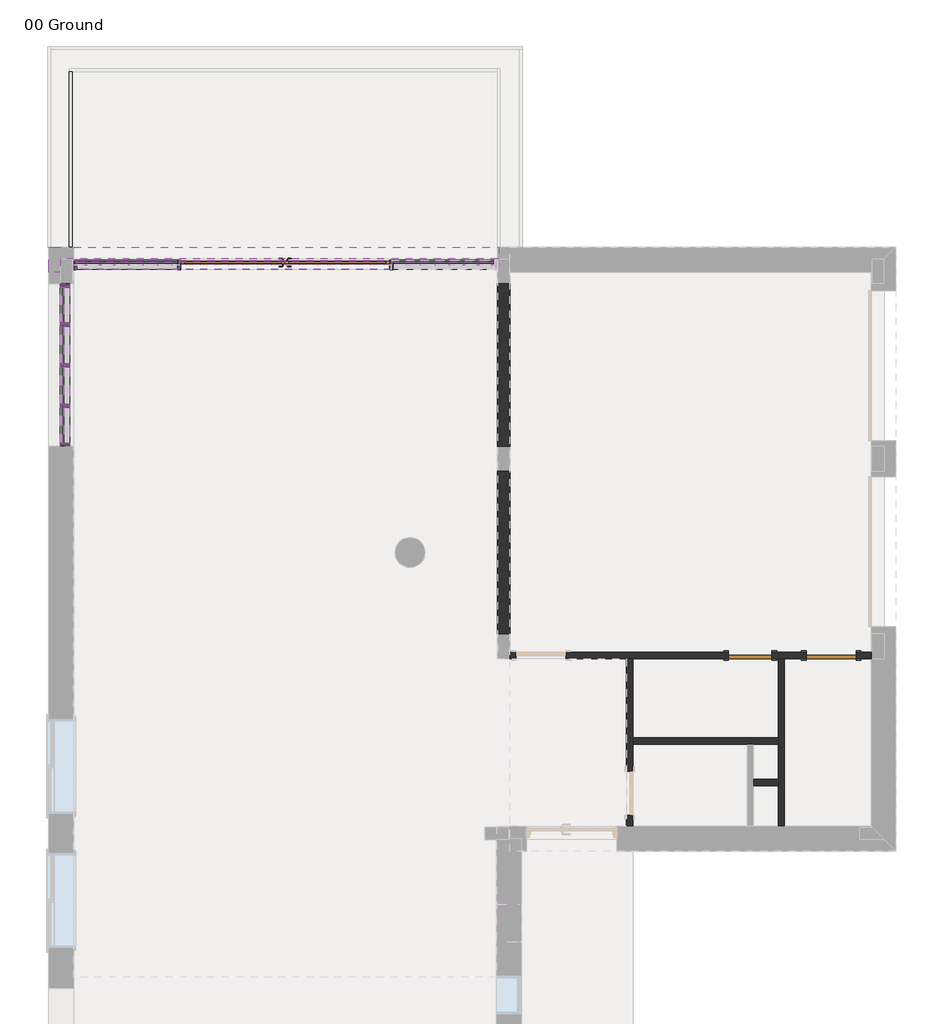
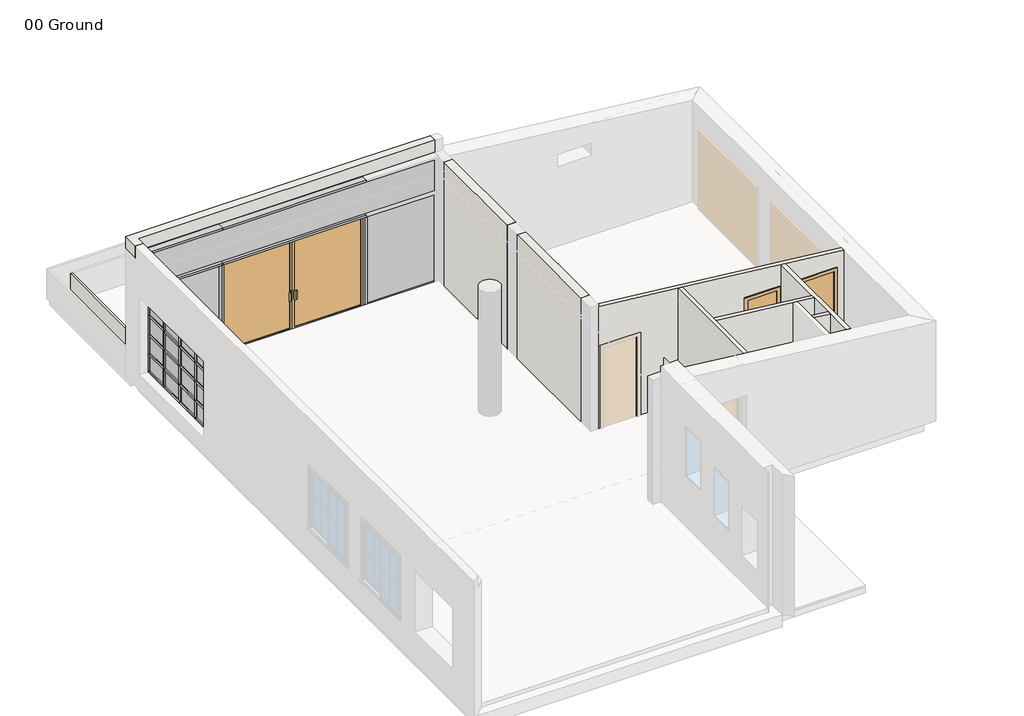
# One storey, part 2 of 3: 50 members, 19 plates, 8 walls, 3 doors.
"""IFC4 building model written with IfcOpenShell, lengths in millimetres."""

from ifc_helpers import new_model, si_unit, frame, origin, origin_with_axes, place, context, project, spatial, polyline, outline, extrude, faceted_brep, transform, mapped, element, save
from components import m_door_curtain_wall_double_storefront_m_door_curtain_wall_edb91ac7, m_single_flush_0700_x_2100mm_23326b45, m_single_flush_0800_x_2100mm_e1c1bfab, rectangular_mullion_50_x_150mm_b8963a12, rectangular_mullion_50_x_150mm_ca64fab8, rectangular_mullion_50_x_150mm_57f910c3, rectangular_mullion_50_x_150mm_ec782ea6, rectangular_mullion_50_x_150mm_324a6438, rectangular_mullion_50_x_150mm_8753ce05, rectangular_mullion_50_x_150mm_5618a3b2, rectangular_mullion_50_x_150mm_9d7ed0e7, rectangular_mullion_50_x_150mm_3942d5f1, rectangular_mullion_50_x_150mm_75048c14, rectangular_mullion_50_x_150mm_fcf054f2, rectangular_mullion_50_x_150mm_24157160, rectangular_mullion_50_x_150mm_bf0cb304, rectangular_mullion_50_x_150mm_89c22e8d, rectangular_mullion_50_x_150mm_42d59fea, rectangular_mullion_50_x_150mm_129a33a7, rectangular_mullion_50_x_150mm_05a43cda, system_panel_glazed_18425fd7, system_panel_glazed_5c27190a, system_panel_glazed_fdc58650, system_panel_glazed_707fa540, system_panel_glazed_f545c6ae, system_panel_glazed_1a6db426, system_panel_solid_6db23722

model = new_model("IFC4")

# Units and contexts
model_context = context("Model", 3, world=origin())
ifc_project = project(units=[si_unit("LENGTHUNIT", "METRE", prefix="MILLI")], contexts=[model_context])

# Site, building, storey
site = spatial("IfcSite", under=ifc_project)
building = spatial("IfcBuilding", under=site)
storey = spatial("IfcBuildingStorey", under=building, Name="00 Ground", Elevation=0.0)

# Doors
placement = place(None, origin())
m_door_curtain_wall_double_storefront_m_door_curtain_wall_shape = m_door_curtain_wall_double_storefront_m_door_curtain_wall_edb91ac7(model_context)
element("IfcDoor", 1, ObjectType="M_Door-Curtain-Wall-Double-Storefront : M_Door-Curtain-Wall-Double-Storefront", at=placement, inside=storey, context=model_context, shape_type="MappedRepresentation", body=[
    mapped(m_door_curtain_wall_double_storefront_m_door_curtain_wall_shape, transform((-4722.5407999, 6242.2898352, 0.0), x_axis=(1.0, 0.0, 0.0), y_axis=(0.0, 1.0, 0.0), z_axis=(0.0, 0.0, 1.0))),
])
m_single_flush_0700_x_2100mm_shape = m_single_flush_0700_x_2100mm_23326b45(model_context)
element("IfcDoor", 2, ObjectType="M_Single-Flush : 0700 x 2100mm", at=placement, inside=storey, context=model_context, shape_type="MappedRepresentation", body=[
    mapped(m_single_flush_0700_x_2100mm_shape, transform((2727.4592001, -12.7101648, 0.0), x_axis=(-1.0, 0.0, 0.0), y_axis=(0.0, -1.0, 0.0), z_axis=(0.0, 0.0, 1.0))),
])
m_single_flush_0800_x_2100mm_shape = m_single_flush_0800_x_2100mm_e1c1bfab(model_context)
element("IfcDoor", 3, ObjectType="M_Single-Flush : 0800 x 2100mm", at=placement, inside=storey, context=model_context, shape_type="MappedRepresentation", body=[
    mapped(m_single_flush_0800_x_2100mm_shape, transform((4024.4592001, -12.7101648, 0.0), x_axis=(1.0, 0.0, 0.0), y_axis=(0.0, 1.0, 0.0), z_axis=(0.0, 0.0, 1.0))),
])

# Members
rectangular_mullion_50_x_150mm_shape = rectangular_mullion_50_x_150mm_b8963a12(model_context)
element("IfcMember", 4, ObjectType="Rectangular Mullion : 50 x 150mm", at=placement, inside=storey, context=model_context, shape_type="MappedRepresentation", body=[
    mapped(rectangular_mullion_50_x_150mm_shape, transform((-2997.5407999, 6242.2898352, 0.0), x_axis=(0.0, 0.0, -1.0), y_axis=(0.0, -1.0, 0.0), z_axis=(-1.0, 0.0, 0.0))),
])
rectangular_mullion_50_x_150mm_2_shape = rectangular_mullion_50_x_150mm_ca64fab8(model_context)
element("IfcMember", 5, ObjectType="Rectangular Mullion : 50 x 150mm", at=placement, inside=storey, context=model_context, shape_type="MappedRepresentation", body=[
    mapped(rectangular_mullion_50_x_150mm_2_shape, transform((-3022.5407999, 6242.2898352, 3200.0), x_axis=(0.0, 0.0, 1.0), y_axis=(0.0, -1.0, 0.0), z_axis=(1.0, 0.0, 0.0))),
])
rectangular_mullion_50_x_150mm_3_shape = rectangular_mullion_50_x_150mm_57f910c3(model_context)
element("IfcMember", 6, ObjectType="Rectangular Mullion : 50 x 150mm", at=placement, inside=storey, context=model_context, shape_type="MappedRepresentation", body=[
    mapped(rectangular_mullion_50_x_150mm_3_shape, transform((-3022.5407999, 6242.2898352, 2300.0), x_axis=(0.0, 0.0, 1.0), y_axis=(0.0, -1.0, 0.0), z_axis=(1.0, 0.0, 0.0))),
])
rectangular_mullion_50_x_150mm_4_shape = rectangular_mullion_50_x_150mm_ec782ea6(model_context)
element("IfcMember", 7, ObjectType="Rectangular Mullion : 50 x 150mm", at=placement, inside=storey, context=model_context, shape_type="MappedRepresentation", body=[
    mapped(rectangular_mullion_50_x_150mm_4_shape, transform((-6422.5407999, 6242.2898352, 0.0), x_axis=(1.0, 0.0, 0.0), y_axis=(0.0, -1.0, 0.0), z_axis=(0.0, 0.0, -1.0))),
])
element("IfcMember", 8, ObjectType="Rectangular Mullion : 50 x 150mm", at=placement, inside=storey, context=model_context, shape_type="MappedRepresentation", body=[
    mapped(rectangular_mullion_50_x_150mm_4_shape, transform((-3022.5407999, 6242.2898352, 0.0), x_axis=(1.0, 0.0, 0.0), y_axis=(0.0, -1.0, 0.0), z_axis=(0.0, 0.0, -1.0))),
])
rectangular_mullion_50_x_150mm_5_shape = rectangular_mullion_50_x_150mm_324a6438(model_context)
element("IfcMember", 9, ObjectType="Rectangular Mullion : 50 x 150mm", at=placement, inside=storey, context=model_context, shape_type="MappedRepresentation", body=[
    mapped(rectangular_mullion_50_x_150mm_5_shape, transform((-8109.5407999, 6242.2898352, 3150.0), x_axis=(-1.0, 0.0, 0.0), y_axis=(0.0, -1.0, 0.0), z_axis=(0.0, 0.0, 1.0))),
])
rectangular_mullion_50_x_150mm_6_shape = rectangular_mullion_50_x_150mm_8753ce05(model_context)
element("IfcMember", 10, ObjectType="Rectangular Mullion : 50 x 150mm", at=placement, inside=storey, context=model_context, shape_type="MappedRepresentation", body=[
    mapped(rectangular_mullion_50_x_150mm_6_shape, transform((-8109.5407999, 6242.2898352, 2300.0), x_axis=(-1.0, 0.0, 0.0), y_axis=(0.0, -1.0, 0.0), z_axis=(0.0, 0.0, 1.0))),
])
rectangular_mullion_50_x_150mm_7_shape = rectangular_mullion_50_x_150mm_5618a3b2(model_context)
element("IfcMember", 11, ObjectType="Rectangular Mullion : 50 x 150mm", at=placement, inside=storey, context=model_context, shape_type="MappedRepresentation", body=[
    mapped(rectangular_mullion_50_x_150mm_7_shape, transform((-8247.5407999, 5937.2898352, 2300.0), x_axis=(0.0, 0.0, 1.0), y_axis=(1.0, 0.0, 0.0), z_axis=(0.0, 1.0, 0.0))),
])
element("IfcMember", 12, ObjectType="Rectangular Mullion : 50 x 150mm", at=placement, inside=storey, context=model_context, shape_type="MappedRepresentation", body=[
    mapped(rectangular_mullion_50_x_150mm_7_shape, transform((-8247.5407999, 3987.2898354, 2300.0), x_axis=(0.0, 0.0, 1.0), y_axis=(1.0, 0.0, 0.0), z_axis=(0.0, 1.0, 0.0))),
])
rectangular_mullion_50_x_150mm_8_shape = rectangular_mullion_50_x_150mm_9d7ed0e7(model_context)
element("IfcMember", 13, ObjectType="Rectangular Mullion : 50 x 150mm", at=placement, inside=storey, context=model_context, shape_type="MappedRepresentation", body=[
    mapped(rectangular_mullion_50_x_150mm_8_shape, transform((-8247.5407999, 4637.2898352, 2300.0), x_axis=(0.0, 0.0, 1.0), y_axis=(1.0, 0.0, 0.0), z_axis=(0.0, 1.0, 0.0))),
])
element("IfcMember", 14, ObjectType="Rectangular Mullion : 50 x 150mm", at=placement, inside=storey, context=model_context, shape_type="MappedRepresentation", body=[
    mapped(rectangular_mullion_50_x_150mm_8_shape, transform((-8247.5407999, 5287.2898351, 2300.0), x_axis=(0.0, 0.0, 1.0), y_axis=(1.0, 0.0, 0.0), z_axis=(0.0, 1.0, 0.0))),
])
element("IfcMember", 15, ObjectType="Rectangular Mullion : 50 x 150mm", at=placement, inside=storey, context=model_context, shape_type="MappedRepresentation", body=[
    mapped(rectangular_mullion_50_x_150mm_7_shape, transform((-8247.5407999, 3337.2898352, 400.0), x_axis=(0.0, 0.0, -1.0), y_axis=(1.0, 0.0, 0.0), z_axis=(0.0, -1.0, 0.0))),
])
element("IfcMember", 16, ObjectType="Rectangular Mullion : 50 x 150mm", at=placement, inside=storey, context=model_context, shape_type="MappedRepresentation", body=[
    mapped(rectangular_mullion_50_x_150mm_8_shape, transform((-8247.5407999, 3987.2898354, 400.0), x_axis=(0.0, 0.0, -1.0), y_axis=(1.0, 0.0, 0.0), z_axis=(0.0, -1.0, 0.0))),
])
element("IfcMember", 17, ObjectType="Rectangular Mullion : 50 x 150mm", at=placement, inside=storey, context=model_context, shape_type="MappedRepresentation", body=[
    mapped(rectangular_mullion_50_x_150mm_8_shape, transform((-8247.5407999, 4637.2898352, 400.0), x_axis=(0.0, 0.0, -1.0), y_axis=(1.0, 0.0, 0.0), z_axis=(0.0, -1.0, 0.0))),
])
element("IfcMember", 18, ObjectType="Rectangular Mullion : 50 x 150mm", at=placement, inside=storey, context=model_context, shape_type="MappedRepresentation", body=[
    mapped(rectangular_mullion_50_x_150mm_7_shape, transform((-8247.5407999, 5287.2898351, 400.0), x_axis=(0.0, 0.0, -1.0), y_axis=(1.0, 0.0, 0.0), z_axis=(0.0, -1.0, 0.0))),
])
rectangular_mullion_50_x_150mm_9_shape = rectangular_mullion_50_x_150mm_3942d5f1(model_context)
element("IfcMember", 19, ObjectType="Rectangular Mullion : 50 x 150mm", at=placement, inside=storey, context=model_context, shape_type="MappedRepresentation", body=[
    mapped(rectangular_mullion_50_x_150mm_9_shape, transform((-8247.5407999, 3962.2898354, 875.0), x_axis=(0.0, 0.0, 1.0), y_axis=(1.0, 0.0, 0.0), z_axis=(0.0, 1.0, 0.0))),
])
element("IfcMember", 20, ObjectType="Rectangular Mullion : 50 x 150mm", at=placement, inside=storey, context=model_context, shape_type="MappedRepresentation", body=[
    mapped(rectangular_mullion_50_x_150mm_9_shape, transform((-8247.5407999, 5887.2898352, 875.0), x_axis=(0.0, 0.0, 1.0), y_axis=(1.0, 0.0, 0.0), z_axis=(0.0, 1.0, 0.0))),
])
element("IfcMember", 21, ObjectType="Rectangular Mullion : 50 x 150mm", at=placement, inside=storey, context=model_context, shape_type="MappedRepresentation", body=[
    mapped(rectangular_mullion_50_x_150mm_9_shape, transform((-8247.5407999, 3962.2898354, 1350.0), x_axis=(0.0, 0.0, 1.0), y_axis=(1.0, 0.0, 0.0), z_axis=(0.0, 1.0, 0.0))),
])
element("IfcMember", 22, ObjectType="Rectangular Mullion : 50 x 150mm", at=placement, inside=storey, context=model_context, shape_type="MappedRepresentation", body=[
    mapped(rectangular_mullion_50_x_150mm_9_shape, transform((-8247.5407999, 5887.2898352, 1350.0), x_axis=(0.0, 0.0, 1.0), y_axis=(1.0, 0.0, 0.0), z_axis=(0.0, 1.0, 0.0))),
])
element("IfcMember", 23, ObjectType="Rectangular Mullion : 50 x 150mm", at=placement, inside=storey, context=model_context, shape_type="MappedRepresentation", body=[
    mapped(rectangular_mullion_50_x_150mm_9_shape, transform((-8247.5407999, 3962.2898354, 1825.0), x_axis=(0.0, 0.0, 1.0), y_axis=(1.0, 0.0, 0.0), z_axis=(0.0, 1.0, 0.0))),
])
element("IfcMember", 24, ObjectType="Rectangular Mullion : 50 x 150mm", at=placement, inside=storey, context=model_context, shape_type="MappedRepresentation", body=[
    mapped(rectangular_mullion_50_x_150mm_9_shape, transform((-8247.5407999, 5887.2898352, 1825.0), x_axis=(0.0, 0.0, 1.0), y_axis=(1.0, 0.0, 0.0), z_axis=(0.0, 1.0, 0.0))),
])
rectangular_mullion_50_x_150mm_10_shape = rectangular_mullion_50_x_150mm_75048c14(model_context)
element("IfcMember", 25, ObjectType="Rectangular Mullion : 50 x 150mm", at=placement, inside=storey, context=model_context, shape_type="MappedRepresentation", body=[
    mapped(rectangular_mullion_50_x_150mm_10_shape, transform((-8247.5407999, 4612.2898352, 875.0), x_axis=(0.0, 0.0, 1.0), y_axis=(1.0, 0.0, 0.0), z_axis=(0.0, 1.0, 0.0))),
])
element("IfcMember", 26, ObjectType="Rectangular Mullion : 50 x 150mm", at=placement, inside=storey, context=model_context, shape_type="MappedRepresentation", body=[
    mapped(rectangular_mullion_50_x_150mm_10_shape, transform((-8247.5407999, 5262.2898351, 875.0), x_axis=(0.0, 0.0, 1.0), y_axis=(1.0, 0.0, 0.0), z_axis=(0.0, 1.0, 0.0))),
])
element("IfcMember", 27, ObjectType="Rectangular Mullion : 50 x 150mm", at=placement, inside=storey, context=model_context, shape_type="MappedRepresentation", body=[
    mapped(rectangular_mullion_50_x_150mm_10_shape, transform((-8247.5407999, 4612.2898352, 1350.0), x_axis=(0.0, 0.0, 1.0), y_axis=(1.0, 0.0, 0.0), z_axis=(0.0, 1.0, 0.0))),
])
element("IfcMember", 28, ObjectType="Rectangular Mullion : 50 x 150mm", at=placement, inside=storey, context=model_context, shape_type="MappedRepresentation", body=[
    mapped(rectangular_mullion_50_x_150mm_10_shape, transform((-8247.5407999, 5262.2898351, 1350.0), x_axis=(0.0, 0.0, 1.0), y_axis=(1.0, 0.0, 0.0), z_axis=(0.0, 1.0, 0.0))),
])
element("IfcMember", 29, ObjectType="Rectangular Mullion : 50 x 150mm", at=placement, inside=storey, context=model_context, shape_type="MappedRepresentation", body=[
    mapped(rectangular_mullion_50_x_150mm_10_shape, transform((-8247.5407999, 4612.2898352, 1825.0), x_axis=(0.0, 0.0, 1.0), y_axis=(1.0, 0.0, 0.0), z_axis=(0.0, 1.0, 0.0))),
])
element("IfcMember", 30, ObjectType="Rectangular Mullion : 50 x 150mm", at=placement, inside=storey, context=model_context, shape_type="MappedRepresentation", body=[
    mapped(rectangular_mullion_50_x_150mm_10_shape, transform((-8247.5407999, 5262.2898351, 1825.0), x_axis=(0.0, 0.0, 1.0), y_axis=(1.0, 0.0, 0.0), z_axis=(0.0, 1.0, 0.0))),
])
rectangular_mullion_50_x_150mm_11_shape = rectangular_mullion_50_x_150mm_fcf054f2(model_context)
element("IfcMember", 31, ObjectType="Rectangular Mullion : 50 x 150mm", at=placement, inside=storey, context=model_context, shape_type="MappedRepresentation", body=[
    mapped(rectangular_mullion_50_x_150mm_11_shape, transform((-6422.5407999, 6242.2898352, 3200.0), x_axis=(0.0, 0.0, 1.0), y_axis=(0.0, -1.0, 0.0), z_axis=(1.0, 0.0, 0.0))),
])
rectangular_mullion_50_x_150mm_12_shape = rectangular_mullion_50_x_150mm_24157160(model_context)
element("IfcMember", 32, ObjectType="Rectangular Mullion : 50 x 150mm", at=placement, inside=storey, context=model_context, shape_type="MappedRepresentation", body=[
    mapped(rectangular_mullion_50_x_150mm_12_shape, transform((-8059.5407999, 6242.2898352, 0.0), x_axis=(0.0, 0.0, -1.0), y_axis=(0.0, -1.0, 0.0), z_axis=(-1.0, 0.0, 0.0))),
])
rectangular_mullion_50_x_150mm_13_shape = rectangular_mullion_50_x_150mm_bf0cb304(model_context)
element("IfcMember", 33, ObjectType="Rectangular Mullion : 50 x 150mm", at=placement, inside=storey, context=model_context, shape_type="MappedRepresentation", body=[
    mapped(rectangular_mullion_50_x_150mm_13_shape, transform((-6422.5407999, 6242.2898352, 2300.0), x_axis=(0.0, 0.0, 1.0), y_axis=(0.0, -1.0, 0.0), z_axis=(1.0, 0.0, 0.0))),
])
rectangular_mullion_50_x_150mm_14_shape = rectangular_mullion_50_x_150mm_89c22e8d(model_context)
element("IfcMember", 34, ObjectType="Rectangular Mullion : 50 x 150mm", at=placement, inside=storey, context=model_context, shape_type="MappedRepresentation", body=[
    mapped(rectangular_mullion_50_x_150mm_14_shape, transform((-8247.5407999, 5937.2898352, 450.0), x_axis=(0.0, 1.0, 0.0), y_axis=(1.0, 0.0, 0.0), z_axis=(0.0, 0.0, -1.0))),
])
rectangular_mullion_50_x_150mm_15_shape = rectangular_mullion_50_x_150mm_42d59fea(model_context)
element("IfcMember", 35, ObjectType="Rectangular Mullion : 50 x 150mm", at=placement, inside=storey, context=model_context, shape_type="MappedRepresentation", body=[
    mapped(rectangular_mullion_50_x_150mm_15_shape, transform((-8247.5407999, 5937.2898352, 875.0), x_axis=(0.0, 1.0, 0.0), y_axis=(1.0, 0.0, 0.0), z_axis=(0.0, 0.0, -1.0))),
])
element("IfcMember", 36, ObjectType="Rectangular Mullion : 50 x 150mm", at=placement, inside=storey, context=model_context, shape_type="MappedRepresentation", body=[
    mapped(rectangular_mullion_50_x_150mm_15_shape, transform((-8247.5407999, 5937.2898352, 1350.0), x_axis=(0.0, 1.0, 0.0), y_axis=(1.0, 0.0, 0.0), z_axis=(0.0, 0.0, -1.0))),
])
element("IfcMember", 37, ObjectType="Rectangular Mullion : 50 x 150mm", at=placement, inside=storey, context=model_context, shape_type="MappedRepresentation", body=[
    mapped(rectangular_mullion_50_x_150mm_14_shape, transform((-8247.5407999, 5937.2898352, 1825.0), x_axis=(0.0, 1.0, 0.0), y_axis=(1.0, 0.0, 0.0), z_axis=(0.0, 0.0, -1.0))),
])
element("IfcMember", 38, ObjectType="Rectangular Mullion : 50 x 150mm", at=placement, inside=storey, context=model_context, shape_type="MappedRepresentation", body=[
    mapped(rectangular_mullion_50_x_150mm_14_shape, transform((-8247.5407999, 3337.2898352, 2250.0), x_axis=(0.0, -1.0, 0.0), y_axis=(1.0, 0.0, 0.0), z_axis=(0.0, 0.0, 1.0))),
])
element("IfcMember", 39, ObjectType="Rectangular Mullion : 50 x 150mm", at=placement, inside=storey, context=model_context, shape_type="MappedRepresentation", body=[
    mapped(rectangular_mullion_50_x_150mm_14_shape, transform((-8247.5407999, 3337.2898352, 875.0), x_axis=(0.0, -1.0, 0.0), y_axis=(1.0, 0.0, 0.0), z_axis=(0.0, 0.0, 1.0))),
])
element("IfcMember", 40, ObjectType="Rectangular Mullion : 50 x 150mm", at=placement, inside=storey, context=model_context, shape_type="MappedRepresentation", body=[
    mapped(rectangular_mullion_50_x_150mm_15_shape, transform((-8247.5407999, 3337.2898352, 1350.0), x_axis=(0.0, -1.0, 0.0), y_axis=(1.0, 0.0, 0.0), z_axis=(0.0, 0.0, 1.0))),
])
element("IfcMember", 41, ObjectType="Rectangular Mullion : 50 x 150mm", at=placement, inside=storey, context=model_context, shape_type="MappedRepresentation", body=[
    mapped(rectangular_mullion_50_x_150mm_15_shape, transform((-8247.5407999, 3337.2898352, 1825.0), x_axis=(0.0, -1.0, 0.0), y_axis=(1.0, 0.0, 0.0), z_axis=(0.0, 0.0, 1.0))),
])
rectangular_mullion_50_x_150mm_16_shape = rectangular_mullion_50_x_150mm_129a33a7(model_context)
element("IfcMember", 42, ObjectType="Rectangular Mullion : 50 x 150mm", at=placement, inside=storey, context=model_context, shape_type="MappedRepresentation", body=[
    mapped(rectangular_mullion_50_x_150mm_16_shape, transform((-8247.5407999, 3987.2898354, 450.0), x_axis=(0.0, 1.0, 0.0), y_axis=(1.0, 0.0, 0.0), z_axis=(0.0, 0.0, -1.0))),
])
element("IfcMember", 43, ObjectType="Rectangular Mullion : 50 x 150mm", at=placement, inside=storey, context=model_context, shape_type="MappedRepresentation", body=[
    mapped(rectangular_mullion_50_x_150mm_16_shape, transform((-8247.5407999, 4637.2898352, 450.0), x_axis=(0.0, 1.0, 0.0), y_axis=(1.0, 0.0, 0.0), z_axis=(0.0, 0.0, -1.0))),
])
element("IfcMember", 44, ObjectType="Rectangular Mullion : 50 x 150mm", at=placement, inside=storey, context=model_context, shape_type="MappedRepresentation", body=[
    mapped(rectangular_mullion_50_x_150mm_16_shape, transform((-8247.5407999, 5287.2898351, 450.0), x_axis=(0.0, 1.0, 0.0), y_axis=(1.0, 0.0, 0.0), z_axis=(0.0, 0.0, -1.0))),
])
rectangular_mullion_50_x_150mm_17_shape = rectangular_mullion_50_x_150mm_05a43cda(model_context)
element("IfcMember", 45, ObjectType="Rectangular Mullion : 50 x 150mm", at=placement, inside=storey, context=model_context, shape_type="MappedRepresentation", body=[
    mapped(rectangular_mullion_50_x_150mm_17_shape, transform((-8247.5407999, 3987.2898354, 875.0), x_axis=(0.0, 1.0, 0.0), y_axis=(1.0, 0.0, 0.0), z_axis=(0.0, 0.0, -1.0))),
])
element("IfcMember", 46, ObjectType="Rectangular Mullion : 50 x 150mm", at=placement, inside=storey, context=model_context, shape_type="MappedRepresentation", body=[
    mapped(rectangular_mullion_50_x_150mm_17_shape, transform((-8247.5407999, 4637.2898352, 875.0), x_axis=(0.0, 1.0, 0.0), y_axis=(1.0, 0.0, 0.0), z_axis=(0.0, 0.0, -1.0))),
])
element("IfcMember", 47, ObjectType="Rectangular Mullion : 50 x 150mm", at=placement, inside=storey, context=model_context, shape_type="MappedRepresentation", body=[
    mapped(rectangular_mullion_50_x_150mm_17_shape, transform((-8247.5407999, 5287.2898351, 875.0), x_axis=(0.0, 1.0, 0.0), y_axis=(1.0, 0.0, 0.0), z_axis=(0.0, 0.0, -1.0))),
])
element("IfcMember", 48, ObjectType="Rectangular Mullion : 50 x 150mm", at=placement, inside=storey, context=model_context, shape_type="MappedRepresentation", body=[
    mapped(rectangular_mullion_50_x_150mm_17_shape, transform((-8247.5407999, 3987.2898354, 1350.0), x_axis=(0.0, 1.0, 0.0), y_axis=(1.0, 0.0, 0.0), z_axis=(0.0, 0.0, -1.0))),
])
element("IfcMember", 49, ObjectType="Rectangular Mullion : 50 x 150mm", at=placement, inside=storey, context=model_context, shape_type="MappedRepresentation", body=[
    mapped(rectangular_mullion_50_x_150mm_17_shape, transform((-8247.5407999, 4637.2898352, 1350.0), x_axis=(0.0, 1.0, 0.0), y_axis=(1.0, 0.0, 0.0), z_axis=(0.0, 0.0, -1.0))),
])
element("IfcMember", 50, ObjectType="Rectangular Mullion : 50 x 150mm", at=placement, inside=storey, context=model_context, shape_type="MappedRepresentation", body=[
    mapped(rectangular_mullion_50_x_150mm_17_shape, transform((-8247.5407999, 5287.2898351, 1350.0), x_axis=(0.0, 1.0, 0.0), y_axis=(1.0, 0.0, 0.0), z_axis=(0.0, 0.0, -1.0))),
])
element("IfcMember", 51, ObjectType="Rectangular Mullion : 50 x 150mm", at=placement, inside=storey, context=model_context, shape_type="MappedRepresentation", body=[
    mapped(rectangular_mullion_50_x_150mm_16_shape, transform((-8247.5407999, 3987.2898354, 1825.0), x_axis=(0.0, 1.0, 0.0), y_axis=(1.0, 0.0, 0.0), z_axis=(0.0, 0.0, -1.0))),
])
element("IfcMember", 52, ObjectType="Rectangular Mullion : 50 x 150mm", at=placement, inside=storey, context=model_context, shape_type="MappedRepresentation", body=[
    mapped(rectangular_mullion_50_x_150mm_16_shape, transform((-8247.5407999, 4637.2898352, 1825.0), x_axis=(0.0, 1.0, 0.0), y_axis=(1.0, 0.0, 0.0), z_axis=(0.0, 0.0, -1.0))),
])
element("IfcMember", 53, ObjectType="Rectangular Mullion : 50 x 150mm", at=placement, inside=storey, context=model_context, shape_type="MappedRepresentation", body=[
    mapped(rectangular_mullion_50_x_150mm_16_shape, transform((-8247.5407999, 5287.2898351, 1825.0), x_axis=(0.0, 1.0, 0.0), y_axis=(1.0, 0.0, 0.0), z_axis=(0.0, 0.0, -1.0))),
])

# Plates
system_panel_glazed_shape = system_panel_glazed_18425fd7(model_context)
element("IfcPlate", 54, ObjectType="System Panel : Glazed", at=placement, inside=storey, context=model_context, shape_type="MappedRepresentation", body=[
    mapped(system_panel_glazed_shape, transform((-2185.0407999, 6242.2898352, 50.0), x_axis=(1.0, 0.0, 0.0), y_axis=(0.0, 1.0, 0.0), z_axis=(0.0, 0.0, 1.0))),
])
system_panel_glazed_2_shape = system_panel_glazed_5c27190a(model_context)
element("IfcPlate", 55, ObjectType="System Panel : Glazed", at=placement, inside=storey, context=model_context, shape_type="MappedRepresentation", body=[
    mapped(system_panel_glazed_2_shape, transform((-8247.5407999, 3674.7898353, 900.0), x_axis=(0.0, 1.0, 0.0), y_axis=(-1.0, 0.0, 0.0), z_axis=(0.0, 0.0, 1.0))),
])
element("IfcPlate", 56, ObjectType="System Panel : Glazed", at=placement, inside=storey, context=model_context, shape_type="MappedRepresentation", body=[
    mapped(system_panel_glazed_2_shape, transform((-8247.5407999, 5599.7898352, 900.0), x_axis=(0.0, 1.0, 0.0), y_axis=(-1.0, 0.0, 0.0), z_axis=(0.0, 0.0, 1.0))),
])
element("IfcPlate", 57, ObjectType="System Panel : Glazed", at=placement, inside=storey, context=model_context, shape_type="MappedRepresentation", body=[
    mapped(system_panel_glazed_2_shape, transform((-8247.5407999, 3674.7898353, 1375.0), x_axis=(0.0, 1.0, 0.0), y_axis=(-1.0, 0.0, 0.0), z_axis=(0.0, 0.0, 1.0))),
])
element("IfcPlate", 58, ObjectType="System Panel : Glazed", at=placement, inside=storey, context=model_context, shape_type="MappedRepresentation", body=[
    mapped(system_panel_glazed_2_shape, transform((-8247.5407999, 5599.7898352, 1375.0), x_axis=(0.0, 1.0, 0.0), y_axis=(-1.0, 0.0, 0.0), z_axis=(0.0, 0.0, 1.0))),
])
system_panel_glazed_3_shape = system_panel_glazed_fdc58650(model_context)
element("IfcPlate", 59, ObjectType="System Panel : Glazed", at=placement, inside=storey, context=model_context, shape_type="MappedRepresentation", body=[
    mapped(system_panel_glazed_3_shape, transform((-8247.5407999, 4312.2898353, 900.0), x_axis=(0.0, 1.0, 0.0), y_axis=(-1.0, 0.0, 0.0), z_axis=(0.0, 0.0, 1.0))),
])
element("IfcPlate", 60, ObjectType="System Panel : Glazed", at=placement, inside=storey, context=model_context, shape_type="MappedRepresentation", body=[
    mapped(system_panel_glazed_3_shape, transform((-8247.5407999, 4962.2898352, 900.0), x_axis=(0.0, 1.0, 0.0), y_axis=(-1.0, 0.0, 0.0), z_axis=(0.0, 0.0, 1.0))),
])
element("IfcPlate", 61, ObjectType="System Panel : Glazed", at=placement, inside=storey, context=model_context, shape_type="MappedRepresentation", body=[
    mapped(system_panel_glazed_3_shape, transform((-8247.5407999, 4312.2898353, 1375.0), x_axis=(0.0, 1.0, 0.0), y_axis=(-1.0, 0.0, 0.0), z_axis=(0.0, 0.0, 1.0))),
])
element("IfcPlate", 62, ObjectType="System Panel : Glazed", at=placement, inside=storey, context=model_context, shape_type="MappedRepresentation", body=[
    mapped(system_panel_glazed_3_shape, transform((-8247.5407999, 4962.2898352, 1375.0), x_axis=(0.0, 1.0, 0.0), y_axis=(-1.0, 0.0, 0.0), z_axis=(0.0, 0.0, 1.0))),
])
system_panel_glazed_4_shape = system_panel_glazed_707fa540(model_context)
element("IfcPlate", 63, ObjectType="System Panel : Glazed", at=placement, inside=storey, context=model_context, shape_type="MappedRepresentation", body=[
    mapped(system_panel_glazed_4_shape, transform((-7253.5407999, 6242.2898352, 50.0), x_axis=(1.0, 0.0, 0.0), y_axis=(0.0, 1.0, 0.0), z_axis=(0.0, 0.0, 1.0))),
])
system_panel_glazed_5_shape = system_panel_glazed_f545c6ae(model_context)
element("IfcPlate", 64, ObjectType="System Panel : Glazed", at=placement, inside=storey, context=model_context, shape_type="MappedRepresentation", body=[
    mapped(system_panel_glazed_5_shape, transform((-8247.5407999, 3674.7898353, 450.0), x_axis=(0.0, 1.0, 0.0), y_axis=(-1.0, 0.0, 0.0), z_axis=(0.0, 0.0, 1.0))),
])
element("IfcPlate", 65, ObjectType="System Panel : Glazed", at=placement, inside=storey, context=model_context, shape_type="MappedRepresentation", body=[
    mapped(system_panel_glazed_5_shape, transform((-8247.5407999, 5599.7898352, 450.0), x_axis=(0.0, 1.0, 0.0), y_axis=(-1.0, 0.0, 0.0), z_axis=(0.0, 0.0, 1.0))),
])
element("IfcPlate", 66, ObjectType="System Panel : Glazed", at=placement, inside=storey, context=model_context, shape_type="MappedRepresentation", body=[
    mapped(system_panel_glazed_5_shape, transform((-8247.5407999, 3674.7898353, 1850.0), x_axis=(0.0, 1.0, 0.0), y_axis=(-1.0, 0.0, 0.0), z_axis=(0.0, 0.0, 1.0))),
])
element("IfcPlate", 67, ObjectType="System Panel : Glazed", at=placement, inside=storey, context=model_context, shape_type="MappedRepresentation", body=[
    mapped(system_panel_glazed_5_shape, transform((-8247.5407999, 5599.7898352, 1850.0), x_axis=(0.0, 1.0, 0.0), y_axis=(-1.0, 0.0, 0.0), z_axis=(0.0, 0.0, 1.0))),
])
system_panel_glazed_6_shape = system_panel_glazed_1a6db426(model_context)
element("IfcPlate", 68, ObjectType="System Panel : Glazed", at=placement, inside=storey, context=model_context, shape_type="MappedRepresentation", body=[
    mapped(system_panel_glazed_6_shape, transform((-8247.5407999, 4312.2898353, 450.0), x_axis=(0.0, 1.0, 0.0), y_axis=(-1.0, 0.0, 0.0), z_axis=(0.0, 0.0, 1.0))),
])
element("IfcPlate", 69, ObjectType="System Panel : Glazed", at=placement, inside=storey, context=model_context, shape_type="MappedRepresentation", body=[
    mapped(system_panel_glazed_6_shape, transform((-8247.5407999, 4962.2898352, 450.0), x_axis=(0.0, 1.0, 0.0), y_axis=(-1.0, 0.0, 0.0), z_axis=(0.0, 0.0, 1.0))),
])
element("IfcPlate", 70, ObjectType="System Panel : Glazed", at=placement, inside=storey, context=model_context, shape_type="MappedRepresentation", body=[
    mapped(system_panel_glazed_6_shape, transform((-8247.5407999, 4312.2898353, 1850.0), x_axis=(0.0, 1.0, 0.0), y_axis=(-1.0, 0.0, 0.0), z_axis=(0.0, 0.0, 1.0))),
])
element("IfcPlate", 71, ObjectType="System Panel : Glazed", at=placement, inside=storey, context=model_context, shape_type="MappedRepresentation", body=[
    mapped(system_panel_glazed_6_shape, transform((-8247.5407999, 4962.2898352, 1850.0), x_axis=(0.0, 1.0, 0.0), y_axis=(-1.0, 0.0, 0.0), z_axis=(0.0, 0.0, 1.0))),
])
system_panel_solid_shape = system_panel_solid_6db23722(model_context)
element("IfcPlate", 72, ObjectType="System Panel : Solid", at=placement, inside=storey, context=model_context, shape_type="MappedRepresentation", body=[
    mapped(system_panel_solid_shape, transform((-4716.0407999, 6242.2898352, 2325.0), x_axis=(1.0, 0.0, 0.0), y_axis=(0.0, 1.0, 0.0), z_axis=(0.0, 0.0, 1.0))),
])

# Walls
element("IfcWall", 73, ObjectType="45T-25linea", at=placement, inside=storey, context=model_context, shape_type="SweptSolid", body=[
    extrude(outline(polyline([(-8182.5407999, 6522.2898352), (-8182.5407999, 9337.2898352), (-8137.5407999, 9337.2898352), (-8137.5407999, 6522.2898352), (-8182.5407999, 6522.2898352)])), origin_with_axes(), (0.0, 0.0, 1.0), 750.0),
])
element("IfcWall", 74, ObjectType="Exterior - Brick on CMU", at=placement, inside=storey, context=model_context, shape_type="Brep", body=[
    faceted_brep([(-8507.5407999, 6522.2898352, 3200.0), (-8507.5407999, 6522.2898352, 3500.0), (-2997.5407999, 6522.2898352, 3500.0), (-1300.0407999, 6522.2898352, 3500.0), (-1300.0407999, 6522.2898352, 3200.0), (-1322.5407999, 6522.2898352, 3200.0), (-8109.5407999, 6522.2898352, 3200.0), (-8507.5407999, 6124.2898352, 3500.0), (-8507.5407999, 6124.2898352, 3200.0), (-8322.5407999, 6124.2898352, 3200.0), (-8322.5407999, 6124.2898352, 3500.0), (-1300.0407999, 6337.2898352, 3200.0), (-1322.5407999, 6337.2898352, 3200.0), (-8122.5407999, 6337.2898352, 3200.0), (-8322.5407999, 6337.2898352, 3200.0), (-8322.5407999, 6337.2898352, 3500.0), (-1322.5407999, 6337.2898352, 3500.0), (-1300.0407999, 6337.2898352, 3500.0)], [[[0, 1, 2, 3, 4, 5, 6]], [[7, 8, 9, 10]], [[8, 0, 6, 5, 4, 11, 12, 13, 14, 9]], [[1, 0, 8, 7]], [[1, 7, 10, 15, 16, 17, 3, 2]], [[15, 14, 13, 12, 11, 17, 16]], [[4, 3, 17, 11]], [[14, 15, 10, 9]]]),
])
element("IfcWall", 75, ObjectType="Generic - 100mm", at=placement, inside=storey, context=model_context, shape_type="Brep", body=[
    faceted_brep([(3277.4592001, -2749.7101648, 0.0), (3277.4592001, -62.7101648, 0.0), (3277.4592001, -62.7101648, 2690.4769604), (3277.4592001, -2749.7101648, 2690.4769604), (3177.4592001, -2749.7101648, 0.0), (3177.4592001, -2749.7101648, 2701.1479386), (3177.4592001, -2097.7101648, 2701.1479386), (3177.4592001, -1997.7101648, 2701.1479386), (3177.4592001, -1432.7101648, 2701.1479386), (3177.4592001, -1332.7101648, 2701.1479386), (3177.4592001, -62.7101648, 2701.1479386), (3177.4592001, -62.7101648, 0.0), (3177.4592001, -1332.7101648, 0.0), (3177.4592001, -1432.7101648, 0.0), (3177.4592001, -1997.7101648, 0.0), (3177.4592001, -2097.7101648, 0.0)], [[[0, 1, 2, 3]], [[4, 5, 6, 7, 8, 9, 10, 11, 12, 13, 14, 15]], [[1, 0, 4, 15, 14, 13, 12, 11]], [[0, 3, 5, 4]], [[2, 1, 11, 10]], [[3, 2, 10, 9, 8, 7, 6, 5]]]),
])
element("IfcWall", 76, ObjectType="Generic - 100mm", at=placement, inside=storey, context=model_context, shape_type="Brep", body=[
    faceted_brep([(2377.4592001, 37.2898352, 2100.0), (2377.4592001, 37.2898352, 0.0), (-222.5407999, 37.2898352, 0.0), (-222.5407999, 37.2898352, 2100.0), (-1022.5407999, 37.2898352, 2100.0), (-1022.5407999, 37.2898352, 0.0), (-1122.5407999, 37.2898352, 0.0), (-1122.5407999, 37.2898352, 3160.0), (4664.4592001, 37.2898352, 2542.4704931), (4664.4592001, 37.2898352, 0.0), (4424.4592001, 37.2898352, 0.0), (4424.4592001, 37.2898352, 2100.0), (3624.4592001, 37.2898352, 2100.0), (3624.4592001, 37.2898352, 0.0), (3077.4592001, 37.2898352, 0.0), (3077.4592001, 37.2898352, 2100.0), (-222.5407999, -62.7101648, 0.0), (746.9592001, -62.7101648, 0.0), (846.9592001, -62.7101648, 0.0), (2377.4592001, -62.7101648, 0.0), (2377.4592001, -62.7101648, 2100.0), (3077.4592001, -62.7101648, 2100.0), (3077.4592001, -62.7101648, 0.0), (3177.4592001, -62.7101648, 0.0), (3277.4592001, -62.7101648, 0.0), (3624.4592001, -62.7101648, 0.0), (3624.4592001, -62.7101648, 2100.0), (4424.4592001, -62.7101648, 2100.0), (4424.4592001, -62.7101648, 0.0), (4664.4592001, -62.7101648, 0.0), (4664.4592001, -62.7101648, 2542.4704931), (3277.4592001, -62.7101648, 2690.4769604), (3177.4592001, -62.7101648, 2701.1479386), (846.9592001, -62.7101648, 2949.8350849), (746.9592001, -62.7101648, 2960.5060631), (-1122.5407999, -62.7101648, 3160.0), (-1122.5407999, -62.7101648, 0.0), (-1022.5407999, -62.7101648, 0.0), (-1022.5407999, -62.7101648, 2100.0), (-222.5407999, -62.7101648, 2100.0)], [[[0, 1, 2, 3, 4, 5, 6, 7, 8, 9, 10, 11, 12, 13, 14, 15]], [[16, 17, 18, 19, 20, 21, 22, 23, 24, 25, 26, 27, 28, 29, 30, 31, 32, 33, 34, 35, 36, 37, 38, 39]], [[6, 5, 37, 36]], [[29, 28, 10, 9]], [[14, 13, 25, 24, 23, 22]], [[2, 1, 19, 18, 17, 16]], [[7, 6, 36, 35]], [[9, 8, 30, 29]], [[8, 7, 35, 34, 33, 32, 31, 30]], [[38, 37, 5, 4]], [[39, 38, 4, 3]], [[16, 39, 3, 2]], [[11, 10, 28, 27]], [[12, 11, 27, 26]], [[13, 12, 26, 25]], [[20, 19, 1, 0]], [[21, 20, 0, 15]], [[22, 21, 15, 14]]]),
])
element("IfcWall", 77, ObjectType="Generic - 100mm", at=placement, inside=storey, context=model_context, shape_type="Brep", body=[
    faceted_brep([(846.9592001, -2749.7101648, 0.0), (846.9592001, -2569.7101648, 0.0), (846.9592001, -2569.7101648, 2100.0), (846.9592001, -1869.7101648, 2100.0), (846.9592001, -1869.7101648, 0.0), (846.9592001, -1432.7101648, 0.0), (846.9592001, -1332.7101648, 0.0), (846.9592001, -62.7101648, 0.0), (846.9592001, -62.7101648, 2949.8350849), (846.9592001, -1332.7101648, 2949.8350849), (846.9592001, -1432.7101648, 2949.8350849), (846.9592001, -2749.7101648, 2949.8350849), (746.9592001, -2569.7101648, 2100.0), (746.9592001, -2569.7101648, 0.0), (746.9592001, -2749.7101648, 0.0), (746.9592001, -2749.7101648, 2960.5060631), (746.9592001, -62.7101648, 2960.5060631), (746.9592001, -62.7101648, 0.0), (746.9592001, -1869.7101648, 0.0), (746.9592001, -1869.7101648, 2100.0)], [[[0, 1, 2, 3, 4, 5, 6, 7, 8, 9, 10, 11]], [[12, 13, 14, 15, 16, 17, 18, 19]], [[18, 17, 7, 6, 5, 4]], [[14, 13, 1, 0]], [[0, 11, 15, 14]], [[8, 7, 17, 16]], [[11, 10, 9, 8, 16, 15]], [[2, 1, 13, 12]], [[3, 2, 12, 19]], [[4, 3, 19, 18]]]),
])
element("IfcWall", 78, ObjectType="Generic - 100mm", at=placement, inside=storey, context=model_context, shape_type="Brep", body=[
    faceted_brep([(846.9592001, -1432.7101648, 0.0), (2677.4592001, -1432.7101648, 0.0), (2777.4592001, -1432.7101648, 0.0), (3177.4592001, -1432.7101648, 0.0), (3177.4592001, -1432.7101648, 2701.1479386), (2777.4592001, -1432.7101648, 2743.8318513), (2677.4592001, -1432.7101648, 2754.5028294), (846.9592001, -1432.7101648, 2949.8350849), (846.9592001, -1332.7101648, 0.0), (846.9592001, -1332.7101648, 2949.8350849), (3177.4592001, -1332.7101648, 2701.1479386), (3177.4592001, -1332.7101648, 0.0)], [[[0, 1, 2, 3, 4, 5, 6, 7]], [[8, 9, 10, 11]], [[3, 2, 1, 0, 8, 11]], [[4, 3, 11, 10]], [[0, 7, 9, 8]], [[7, 6, 5, 4, 10, 9]]]),
])
element("IfcWall", 79, ObjectType="Generic - 100mm", at=placement, inside=storey, context=model_context, shape_type="SweptSolid", body=[
    extrude(outline(polyline([(0.0, 2777.4592001), (0.0, 3177.4592001), (2701.1479386, 3177.4592001), (2743.8318513, 2777.4592001), (0.0, 2777.4592001)])), frame((0.0, -2097.7101648, 0.0), z_axis=(0.0, 1.0, 0.0), x_axis=(0.0, 0.0, 1.0)), (0.0, 0.0, 1.0), 100.0),
])
element("IfcWall", 80, ObjectType="Generic - 200mm - Filled", at=placement, inside=storey, context=model_context, shape_type="SweptSolid", body=[
    extrude(outline(polyline([(-1322.5407999, 5937.2898352), (-1122.5407999, 5937.2898352), (-1122.5407999, 3337.2898352), (-1322.5407999, 3337.2898352), (-1322.5407999, 5937.2898352)])), origin_with_axes(), (0.0, 0.0, 1.0), 3200.0),
    extrude(outline(polyline([(-1322.5407999, 2937.2898352), (-1122.5407999, 2937.2898352), (-1122.5407999, 337.2898352), (-1322.5407999, 337.2898352), (-1322.5407999, 2937.2898352)])), origin_with_axes(), (0.0, 0.0, 1.0), 3200.0),
])

save(model, "model.ifc")
